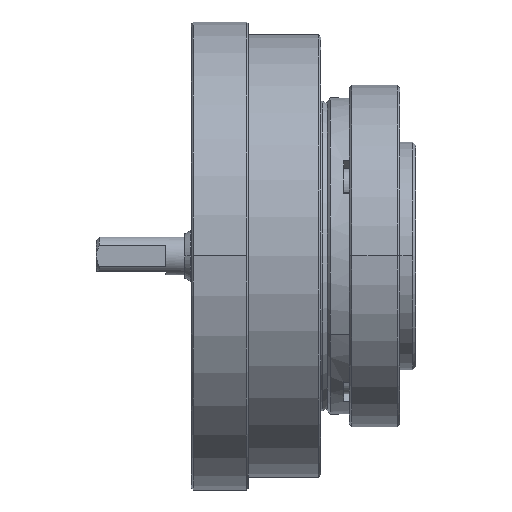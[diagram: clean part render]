
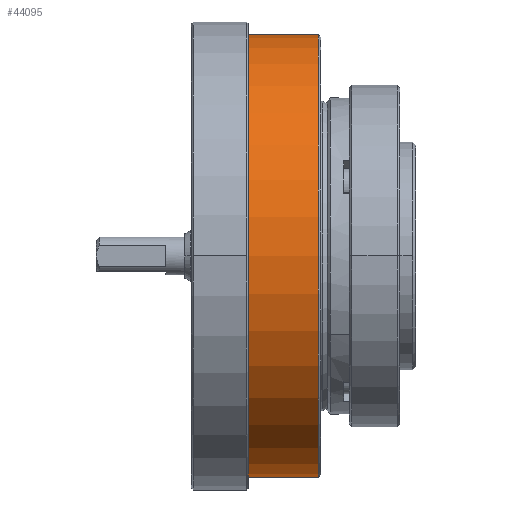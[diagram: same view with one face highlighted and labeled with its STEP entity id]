
A CAD part, top view. The second image highlights one B-rep face of the part: STEP entity #44095.
In plain terms, the highlighted cylindrical face has radius 35 mm (diameter 70 mm), a partial arc.
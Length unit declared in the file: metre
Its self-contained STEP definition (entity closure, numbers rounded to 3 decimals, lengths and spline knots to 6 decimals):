
#380 = DIRECTION ( 'NONE',  ( 1., 0., 0. ) ) ;
#944 = LINE ( 'NONE', #23110, #27145 ) ;
#1398 = FACE_OUTER_BOUND ( 'NONE', #29011, .T. ) ;
#3486 = EDGE_CURVE ( 'NONE', #21609, #4970, #35399, .T. ) ;
#4388 = ORIENTED_EDGE ( 'NONE', *, *, #45322, .T. ) ;
#4970 = VERTEX_POINT ( 'NONE', #31080 ) ;
#5157 = VECTOR ( 'NONE', #41639, 1. ) ;
#8073 = DIRECTION ( 'NONE',  ( 0., -1., 0. ) ) ;
#8875 = EDGE_CURVE ( 'NONE', #20242, #19926, #33176, .T. ) ;
#11168 = LINE ( 'NONE', #26177, #5157 ) ;
#11777 = CYLINDRICAL_SURFACE ( 'NONE', #45837, 0.035 ) ;
#14204 = AXIS2_PLACEMENT_3D ( 'NONE', #45164, #380, #30419 ) ;
#19926 = VERTEX_POINT ( 'NONE', #27976 ) ;
#20242 = VERTEX_POINT ( 'NONE', #40879 ) ;
#21609 = VERTEX_POINT ( 'NONE', #45460 ) ;
#22973 = ORIENTED_EDGE ( 'NONE', *, *, #25614, .F. ) ;
#23110 = CARTESIAN_POINT ( 'NONE',  ( -0.005642, 0.035, 0. ) ) ;
#25614 = EDGE_CURVE ( 'NONE', #20242, #4970, #11168, .T. ) ;
#26177 = CARTESIAN_POINT ( 'NONE',  ( -0.005642, -0.035, 0. ) ) ;
#26910 = AXIS2_PLACEMENT_3D ( 'NONE', #40699, #36997, #48303 ) ;
#27145 = VECTOR ( 'NONE', #37859, 1. ) ;
#27976 = CARTESIAN_POINT ( 'NONE',  ( 0.0161, 0.035, 0. ) ) ;
#29011 = EDGE_LOOP ( 'NONE', ( #30991, #4388, #47912, #22973 ) ) ;
#30419 = DIRECTION ( 'NONE',  ( 0., -1., 0. ) ) ;
#30991 = ORIENTED_EDGE ( 'NONE', *, *, #8875, .T. ) ;
#31080 = CARTESIAN_POINT ( 'NONE',  ( 0.0028, -0.035, 0. ) ) ;
#33176 = CIRCLE ( 'NONE', #26910, 0.035 ) ;
#35399 = CIRCLE ( 'NONE', #14204, 0.035 ) ;
#36997 = DIRECTION ( 'NONE',  ( -1., 0., 0. ) ) ;
#37859 = DIRECTION ( 'NONE',  ( -1., 0., 0. ) ) ;
#40699 = CARTESIAN_POINT ( 'NONE',  ( 0.0161, 0., 0. ) ) ;
#40879 = CARTESIAN_POINT ( 'NONE',  ( 0.0161, -0.035, 0. ) ) ;
#41639 = DIRECTION ( 'NONE',  ( -1., 0., 0. ) ) ;
#41759 = DIRECTION ( 'NONE',  ( -1., 0., 0. ) ) ;
#44095 = ADVANCED_FACE ( 'NONE', ( #1398 ), #11777, .T. ) ;
#45164 = CARTESIAN_POINT ( 'NONE',  ( 0.0028, 0., 0. ) ) ;
#45322 = EDGE_CURVE ( 'NONE', #19926, #21609, #944, .T. ) ;
#45460 = CARTESIAN_POINT ( 'NONE',  ( 0.0028, 0.035, 0. ) ) ;
#45837 = AXIS2_PLACEMENT_3D ( 'NONE', #46416, #41759, #8073 ) ;
#46416 = CARTESIAN_POINT ( 'NONE',  ( -0.005642, 0., 0. ) ) ;
#47912 = ORIENTED_EDGE ( 'NONE', *, *, #3486, .T. ) ;
#48303 = DIRECTION ( 'NONE',  ( 0., -1., 0. ) ) ;
